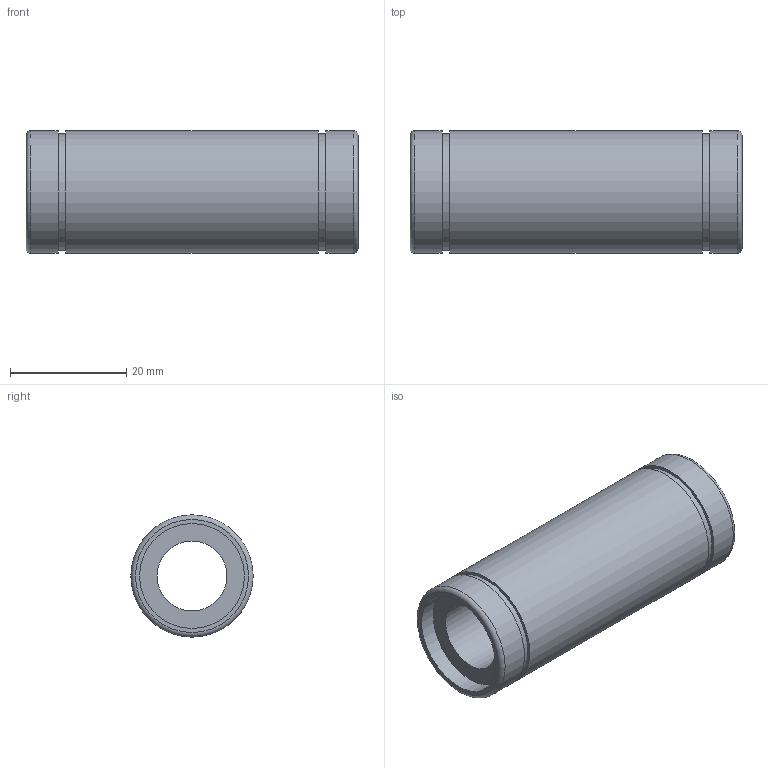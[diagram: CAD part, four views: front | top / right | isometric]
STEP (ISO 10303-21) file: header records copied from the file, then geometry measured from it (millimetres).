
FILE_DESCRIPTION( ( 'Unknown' ), '1' );
FILE_NAME( 'D:/累诀/己绕皋墨飘肺葱胶/11-04-06_档搁累己/01_府聪绢何教/LM L/LM 12L.stp', 'Unknown', ( 'Unknown' ), ( 'Unknown' ), 'PSStep 11.0', 'Unknown', ' ' );
FILE_SCHEMA( ( 'AUTOMOTIVE_DESIGN { 1 0 10303 214 1 1 1 1 }' ) );
Length unit declared in the file: millimetre
Products named in the file (1): 1
Bounding box: 57 x 21 x 21 mm (x, y, z)
Volume: 12388.6 mm3; surface area: 6558.1 mm2
Topology: 1 solids, 1 shells, 18 faces, 30 edges, 20 vertices
Faces by surface type: plane 8, cylinder 8, torus 2
Full cylindrical faces by diameter (mm): 12 x1, 18 x2, 20 x2, 21 x3
Entity records: 528 total; most frequent: DIRECTION 74, CARTESIAN_POINT 55, AXIS2_PLACEMENT_3D 37, EDGE_LOOP 36, ORIENTED_EDGE 36, FACE_OUTER_BOUND 28, STYLED_ITEM 18, PRESENTATION_STYLE_ASSIGNMENT 18
